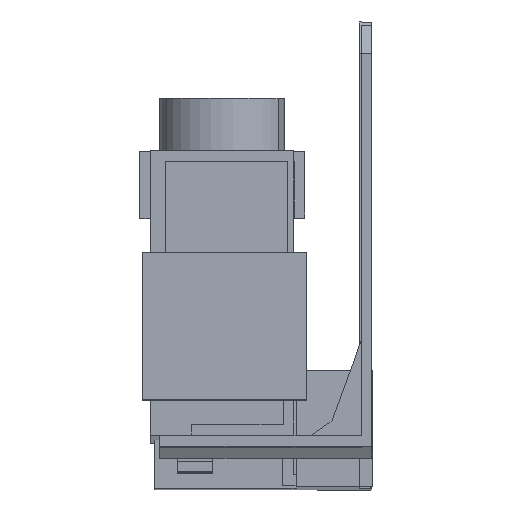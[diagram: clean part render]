
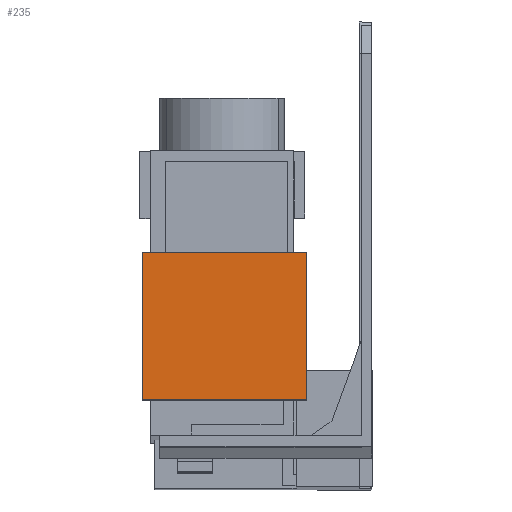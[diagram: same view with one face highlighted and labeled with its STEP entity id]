
A CAD part, front view. The second image highlights one B-rep face of the part: STEP entity #235.
In plain terms, the highlighted planar face has unit normal (0, -1, 0.003).
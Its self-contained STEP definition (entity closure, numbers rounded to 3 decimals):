
#235 = ADVANCED_FACE ( 'NONE', ( #2379 ), #3829, .T. ) ;
#492 = ORIENTED_EDGE ( 'NONE', *, *, #612, .T. ) ;
#493 = ORIENTED_EDGE ( 'NONE', *, *, #1768, .F. ) ;
#494 = ORIENTED_EDGE ( 'NONE', *, *, #647, .F. ) ;
#496 = ORIENTED_EDGE ( 'NONE', *, *, #6241, .T. ) ;
#612 = EDGE_CURVE ( 'NONE', #7131, #7124, #2755, .T. ) ;
#647 = EDGE_CURVE ( 'NONE', #7119, #7125, #2767, .T. ) ;
#1768 = EDGE_CURVE ( 'NONE', #7125, #7124, #5758, .T. ) ;
#2379 = FACE_OUTER_BOUND ( 'NONE', #7667, .T. ) ;
#2755 = LINE ( 'NONE', #4346, #2757 ) ;
#2757 = VECTOR ( 'NONE', #4348, 1000. ) ;
#2767 = LINE ( 'NONE', #4347, #2771 ) ;
#2771 = VECTOR ( 'NONE', #4367, 1000. ) ;
#3829 = PLANE ( 'NONE',  #6231 ) ;
#3832 = CARTESIAN_POINT ( 'NONE',  ( -9.3, -31.509, -40.315 ) ) ;
#3838 = DIRECTION ( 'NONE',  ( 0., -1., 0.003 ) ) ;
#3839 = DIRECTION ( 'NONE',  ( 1., 0., 0. ) ) ;
#4346 = CARTESIAN_POINT ( 'NONE',  ( -9.3, -31.452, -19.316 ) ) ;
#4347 = CARTESIAN_POINT ( 'NONE',  ( -9.3, -31.509, -40.315 ) ) ;
#4348 = DIRECTION ( 'NONE',  ( -1., 0., 0. ) ) ;
#4367 = DIRECTION ( 'NONE',  ( -1., 0., 0. ) ) ;
#5035 = CARTESIAN_POINT ( 'NONE',  ( -32.7, -31.509, -40.315 ) ) ;
#5043 = DIRECTION ( 'NONE',  ( 0., 0.003, 1. ) ) ;
#5185 = CARTESIAN_POINT ( 'NONE',  ( -9.3, -31.509, -40.315 ) ) ;
#5186 = DIRECTION ( 'NONE',  ( 0., 0.003, 1. ) ) ;
#5527 = CARTESIAN_POINT ( 'NONE',  ( -9.3, -31.509, -40.315 ) ) ;
#5532 = CARTESIAN_POINT ( 'NONE',  ( -32.7, -31.452, -19.316 ) ) ;
#5533 = CARTESIAN_POINT ( 'NONE',  ( -32.7, -31.509, -40.315 ) ) ;
#5539 = CARTESIAN_POINT ( 'NONE',  ( -9.3, -31.452, -19.316 ) ) ;
#5755 = VECTOR ( 'NONE', #5043, 1000. ) ;
#5758 = LINE ( 'NONE', #5035, #5755 ) ;
#5871 = LINE ( 'NONE', #5185, #5872 ) ;
#5872 = VECTOR ( 'NONE', #5186, 1000. ) ;
#6231 = AXIS2_PLACEMENT_3D ( 'NONE', #3832, #3838, #3839 ) ;
#6241 = EDGE_CURVE ( 'NONE', #7119, #7131, #5871, .T. ) ;
#7119 = VERTEX_POINT ( 'NONE', #5527 ) ;
#7124 = VERTEX_POINT ( 'NONE', #5532 ) ;
#7125 = VERTEX_POINT ( 'NONE', #5533 ) ;
#7131 = VERTEX_POINT ( 'NONE', #5539 ) ;
#7667 = EDGE_LOOP ( 'NONE', ( #492, #493, #494, #496 ) ) ;
